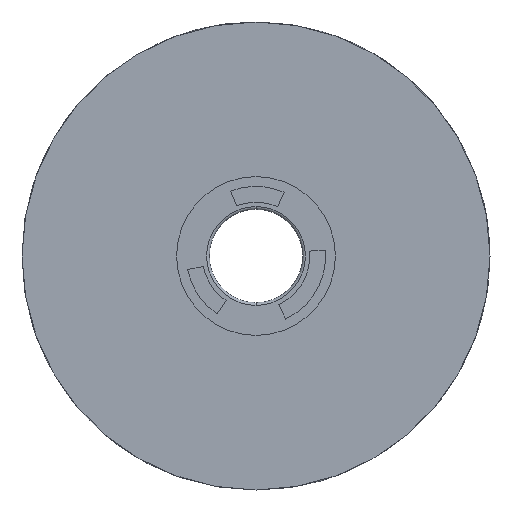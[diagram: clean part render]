
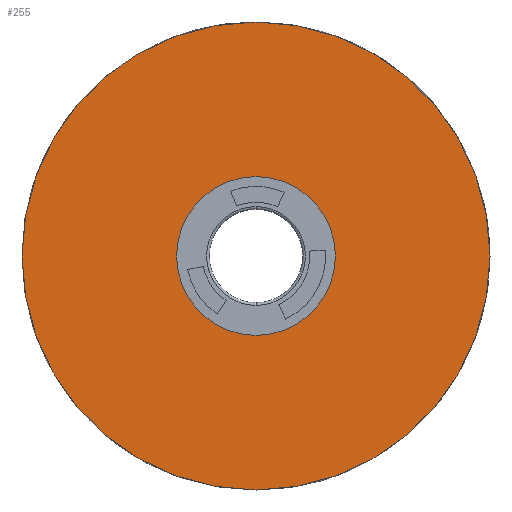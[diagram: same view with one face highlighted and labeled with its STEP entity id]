
A CAD part, front view. The second image highlights one B-rep face of the part: STEP entity #255.
In plain terms, the highlighted planar face has unit normal (0, -1, 0).
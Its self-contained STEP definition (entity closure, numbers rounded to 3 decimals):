
#81 = EDGE_CURVE ( 'NONE', #1709, #3219, #2647, .T. ) ;
#166 = AXIS2_PLACEMENT_3D ( 'NONE', #2530, #2820, #203 ) ;
#191 = DIRECTION ( 'NONE',  ( 0., 0., -1. ) ) ;
#203 = DIRECTION ( 'NONE',  ( 0., 0., -1. ) ) ;
#228 = EDGE_LOOP ( 'NONE', ( #590, #1877 ) ) ;
#255 = ADVANCED_FACE ( 'NONE', ( #2551, #1059 ), #2219, .T. ) ;
#268 = DIRECTION ( 'NONE',  ( 0., -1., 0. ) ) ;
#349 = EDGE_CURVE ( 'NONE', #3219, #1709, #468, .T. ) ;
#379 = EDGE_LOOP ( 'NONE', ( #1166, #1627 ) ) ;
#468 = CIRCLE ( 'NONE', #1621, 42. ) ;
#590 = ORIENTED_EDGE ( 'NONE', *, *, #81, .T. ) ;
#1007 = CIRCLE ( 'NONE', #1131, 14.25 ) ;
#1059 = FACE_OUTER_BOUND ( 'NONE', #228, .T. ) ;
#1131 = AXIS2_PLACEMENT_3D ( 'NONE', #2858, #1664, #1642 ) ;
#1166 = ORIENTED_EDGE ( 'NONE', *, *, #2693, .F. ) ;
#1348 = VERTEX_POINT ( 'NONE', #1369 ) ;
#1369 = CARTESIAN_POINT ( 'NONE',  ( 0., -9.45, 14.25 ) ) ;
#1420 = AXIS2_PLACEMENT_3D ( 'NONE', #2723, #2511, #3687 ) ;
#1502 = VERTEX_POINT ( 'NONE', #1585 ) ;
#1585 = CARTESIAN_POINT ( 'NONE',  ( 0., -9.45, -14.25 ) ) ;
#1621 = AXIS2_PLACEMENT_3D ( 'NONE', #2831, #1635, #191 ) ;
#1627 = ORIENTED_EDGE ( 'NONE', *, *, #1681, .F. ) ;
#1635 = DIRECTION ( 'NONE',  ( 0., -1., 0. ) ) ;
#1642 = DIRECTION ( 'NONE',  ( 0., 0., -1. ) ) ;
#1664 = DIRECTION ( 'NONE',  ( 0., -1., 0. ) ) ;
#1681 = EDGE_CURVE ( 'NONE', #1348, #1502, #1007, .T. ) ;
#1709 = VERTEX_POINT ( 'NONE', #3705 ) ;
#1714 = CARTESIAN_POINT ( 'NONE',  ( 0., -9.45, 0. ) ) ;
#1745 = CIRCLE ( 'NONE', #1988, 14.25 ) ;
#1877 = ORIENTED_EDGE ( 'NONE', *, *, #349, .T. ) ;
#1988 = AXIS2_PLACEMENT_3D ( 'NONE', #1714, #268, #3775 ) ;
#2219 = PLANE ( 'NONE',  #166 ) ;
#2511 = DIRECTION ( 'NONE',  ( 0., -1., 0. ) ) ;
#2530 = CARTESIAN_POINT ( 'NONE',  ( 0., -9.45, -8.375 ) ) ;
#2551 = FACE_BOUND ( 'NONE', #379, .T. ) ;
#2647 = CIRCLE ( 'NONE', #1420, 42. ) ;
#2693 = EDGE_CURVE ( 'NONE', #1502, #1348, #1745, .T. ) ;
#2723 = CARTESIAN_POINT ( 'NONE',  ( 0., -9.45, 0. ) ) ;
#2820 = DIRECTION ( 'NONE',  ( 0., -1., 0. ) ) ;
#2831 = CARTESIAN_POINT ( 'NONE',  ( 0., -9.45, 0. ) ) ;
#2858 = CARTESIAN_POINT ( 'NONE',  ( 0., -9.45, 0. ) ) ;
#2957 = CARTESIAN_POINT ( 'NONE',  ( 0., -9.45, 42. ) ) ;
#3219 = VERTEX_POINT ( 'NONE', #2957 ) ;
#3687 = DIRECTION ( 'NONE',  ( 0., 0., -1. ) ) ;
#3705 = CARTESIAN_POINT ( 'NONE',  ( 0., -9.45, -42. ) ) ;
#3775 = DIRECTION ( 'NONE',  ( 0., 0., -1. ) ) ;
